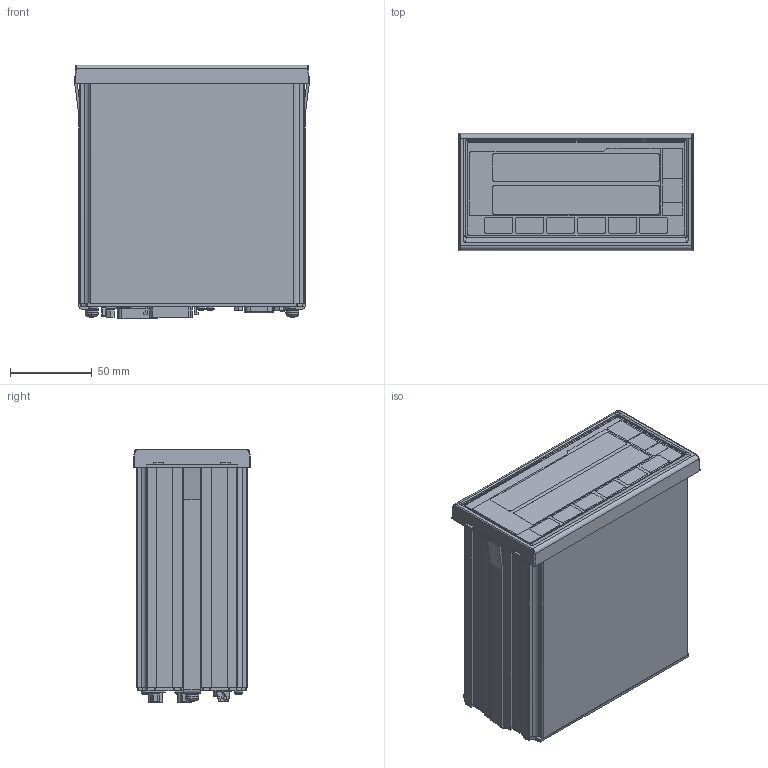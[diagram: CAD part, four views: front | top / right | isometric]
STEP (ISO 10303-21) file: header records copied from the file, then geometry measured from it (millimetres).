
FILE_DESCRIPTION(('Creo Elements/Direct Modeling STEP Export'),'2;1');
FILE_NAME('EH-102S.stp','2017-05-30T14:55:16',(''),(''),'Creo Elements/Direct Modeling STEP processor for AP214 (Solid Model)','Creo Elements/Direct Modeling 18.1B 29-Sep-2012 (C) Parametric Technology GmbH','');
FILE_SCHEMA(('AUTOMOTIVE_DESIGN { 1 0 10303 214 1 1 1 1 }'));
Length unit declared in the file: millimetre
Products named in the file (2): EH-102S
Assembly tree (1 placements, depth 2):
  EH-102S
    EH-102S
Bounding box: 144 x 72 x 155.7 mm (x, y, z)
Volume: 1354051.8 mm3; surface area: 104816.3 mm2
Topology: 1 solids, 1 shells, 1458 faces, 3754 edges, 2418 vertices
Faces by surface type: plane 1024, cylinder 344, torus 40, cone 24, sphere 22, bspline 4
Entity records: 47538 total; most frequent: CARTESIAN_POINT 9668, ORIENTED_EDGE 7502, DIRECTION 6777, EDGE_CURVE 3750, VECTOR 2613, LINE 2613, VERTEX_POINT 2418, AXIS2_PLACEMENT_3D 2082
